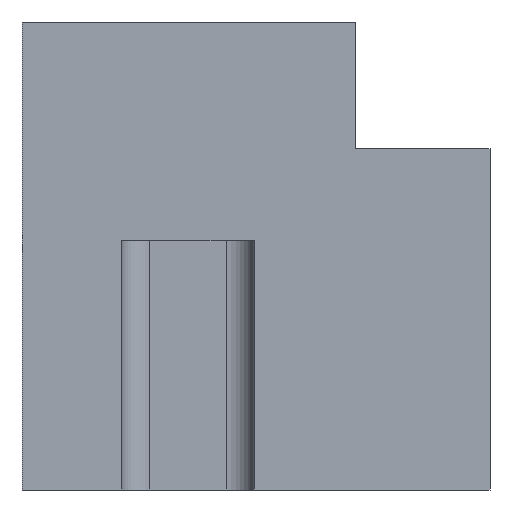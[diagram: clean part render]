
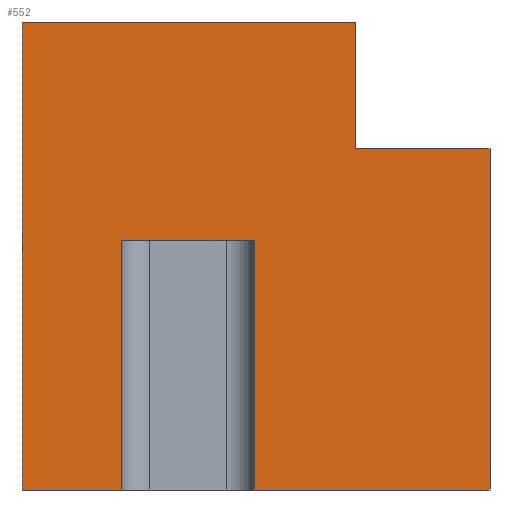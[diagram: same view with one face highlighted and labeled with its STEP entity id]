
A CAD part, left-side view. The second image highlights one B-rep face of the part: STEP entity #552.
In plain terms, the highlighted planar face has unit normal (-1, 0, 0).
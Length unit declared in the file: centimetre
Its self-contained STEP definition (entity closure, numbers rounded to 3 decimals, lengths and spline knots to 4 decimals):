
#18 = CARTESIAN_POINT ( 'NONE',  ( 0., 1000., 1000. ) ) ;
#44 = ORIENTED_EDGE ( 'NONE', *, *, #167, .T. ) ;
#46 = CARTESIAN_POINT ( 'NONE',  ( 0., 787.3176, 532.5168 ) ) ;
#56 = VECTOR ( 'NONE', #266, 100. ) ;
#63 = CARTESIAN_POINT ( 'NONE',  ( 0., 1000., 0. ) ) ;
#79 = LINE ( 'NONE', #85, #359 ) ;
#85 = CARTESIAN_POINT ( 'NONE',  ( 0., 503.7866, 532.5168 ) ) ;
#87 = EDGE_CURVE ( 'NONE', #905, #747, #79, .T. ) ;
#89 = LINE ( 'NONE', #745, #268 ) ;
#112 = EDGE_CURVE ( 'NONE', #905, #342, #241, .T. ) ;
#113 = CARTESIAN_POINT ( 'NONE',  ( 0., 288.0273, 1000. ) ) ;
#120 = EDGE_CURVE ( 'NONE', #227, #201, #884, .T. ) ;
#128 = ORIENTED_EDGE ( 'NONE', *, *, #112, .F. ) ;
#133 = CARTESIAN_POINT ( 'NONE',  ( 0., 503.7866, 532.5168 ) ) ;
#142 = CARTESIAN_POINT ( 'NONE',  ( 0., 288.0273, 729.4015 ) ) ;
#144 = EDGE_CURVE ( 'NONE', #227, #502, #160, .T. ) ;
#150 = CARTESIAN_POINT ( 'NONE',  ( 0., 288.0273, 729.4015 ) ) ;
#155 = VECTOR ( 'NONE', #990, 100. ) ;
#160 = LINE ( 'NONE', #488, #562 ) ;
#166 = CARTESIAN_POINT ( 'NONE',  ( 0., 1000., 532.5168 ) ) ;
#167 = EDGE_CURVE ( 'NONE', #285, #502, #878, .T. ) ;
#188 = LINE ( 'NONE', #843, #155 ) ;
#197 = PLANE ( 'NONE',  #832 ) ;
#201 = VERTEX_POINT ( 'NONE', #236 ) ;
#219 = CARTESIAN_POINT ( 'NONE',  ( 0., 0., 729.4015 ) ) ;
#227 = VERTEX_POINT ( 'NONE', #643 ) ;
#236 = CARTESIAN_POINT ( 'NONE',  ( 0., 1000., 0. ) ) ;
#241 = LINE ( 'NONE', #166, #580 ) ;
#261 = ORIENTED_EDGE ( 'NONE', *, *, #120, .T. ) ;
#266 = DIRECTION ( 'NONE',  ( 0., 1., 0. ) ) ;
#268 = VECTOR ( 'NONE', #335, 100. ) ;
#285 = VERTEX_POINT ( 'NONE', #142 ) ;
#332 = VERTEX_POINT ( 'NONE', #556 ) ;
#335 = DIRECTION ( 'NONE',  ( 0., 0., 1. ) ) ;
#337 = ORIENTED_EDGE ( 'NONE', *, *, #144, .F. ) ;
#342 = VERTEX_POINT ( 'NONE', #46 ) ;
#346 = LINE ( 'NONE', #349, #56 ) ;
#347 = DIRECTION ( 'NONE',  ( 1., 0., 0. ) ) ;
#349 = CARTESIAN_POINT ( 'NONE',  ( 0., 0., 729.4015 ) ) ;
#359 = VECTOR ( 'NONE', #485, 100. ) ;
#386 = ORIENTED_EDGE ( 'NONE', *, *, #443, .T. ) ;
#389 = VERTEX_POINT ( 'NONE', #219 ) ;
#394 = DIRECTION ( 'NONE',  ( 0., -1., 0. ) ) ;
#398 = VECTOR ( 'NONE', #394, 100. ) ;
#400 = LINE ( 'NONE', #63, #398 ) ;
#421 = ORIENTED_EDGE ( 'NONE', *, *, #781, .T. ) ;
#443 = EDGE_CURVE ( 'NONE', #332, #342, #89, .T. ) ;
#485 = DIRECTION ( 'NONE',  ( 0., 0., -1. ) ) ;
#488 = CARTESIAN_POINT ( 'NONE',  ( 0., 1000., 1000. ) ) ;
#502 = VERTEX_POINT ( 'NONE', #113 ) ;
#547 = VECTOR ( 'NONE', #801, 100. ) ;
#552 = ADVANCED_FACE ( 'NONE', ( #922 ), #197, .F. ) ;
#556 = CARTESIAN_POINT ( 'NONE',  ( 0., 787.3176, 0. ) ) ;
#562 = VECTOR ( 'NONE', #1029, 100. ) ;
#568 = DIRECTION ( 'NONE',  ( 0., 0., -1. ) ) ;
#580 = VECTOR ( 'NONE', #724, 100. ) ;
#628 = ORIENTED_EDGE ( 'NONE', *, *, #824, .F. ) ;
#643 = CARTESIAN_POINT ( 'NONE',  ( 0., 1000., 1000. ) ) ;
#659 = LINE ( 'NONE', #831, #868 ) ;
#686 = CARTESIAN_POINT ( 'NONE',  ( 0., 503.7866, 0. ) ) ;
#696 = DIRECTION ( 'NONE',  ( 0., 0., -1. ) ) ;
#708 = EDGE_CURVE ( 'NONE', #389, #285, #346, .T. ) ;
#724 = DIRECTION ( 'NONE',  ( 0., 1., 0. ) ) ;
#745 = CARTESIAN_POINT ( 'NONE',  ( 0., 787.3176, 532.5168 ) ) ;
#747 = VERTEX_POINT ( 'NONE', #686 ) ;
#781 = EDGE_CURVE ( 'NONE', #747, #909, #188, .T. ) ;
#789 = CARTESIAN_POINT ( 'NONE',  ( 0., 0., 0. ) ) ;
#801 = DIRECTION ( 'NONE',  ( 0., 0., 1. ) ) ;
#824 = EDGE_CURVE ( 'NONE', #389, #909, #659, .T. ) ;
#827 = ORIENTED_EDGE ( 'NONE', *, *, #998, .T. ) ;
#831 = CARTESIAN_POINT ( 'NONE',  ( 0., 0., 1000. ) ) ;
#832 = AXIS2_PLACEMENT_3D ( 'NONE', #18, #347, #986 ) ;
#843 = CARTESIAN_POINT ( 'NONE',  ( 0., 1000., 0. ) ) ;
#868 = VECTOR ( 'NONE', #696, 100. ) ;
#878 = LINE ( 'NONE', #150, #547 ) ;
#884 = LINE ( 'NONE', #960, #981 ) ;
#905 = VERTEX_POINT ( 'NONE', #133 ) ;
#909 = VERTEX_POINT ( 'NONE', #789 ) ;
#922 = FACE_OUTER_BOUND ( 'NONE', #1013, .T. ) ;
#960 = CARTESIAN_POINT ( 'NONE',  ( 0., 1000., 1000. ) ) ;
#969 = ORIENTED_EDGE ( 'NONE', *, *, #87, .T. ) ;
#981 = VECTOR ( 'NONE', #568, 100. ) ;
#986 = DIRECTION ( 'NONE',  ( 0., 0., -1. ) ) ;
#990 = DIRECTION ( 'NONE',  ( 0., -1., 0. ) ) ;
#998 = EDGE_CURVE ( 'NONE', #201, #332, #400, .T. ) ;
#1013 = EDGE_LOOP ( 'NONE', ( #128, #969, #421, #628, #1017, #44, #337, #261, #827, #386 ) ) ;
#1017 = ORIENTED_EDGE ( 'NONE', *, *, #708, .T. ) ;
#1029 = DIRECTION ( 'NONE',  ( 0., -1., 0. ) ) ;
